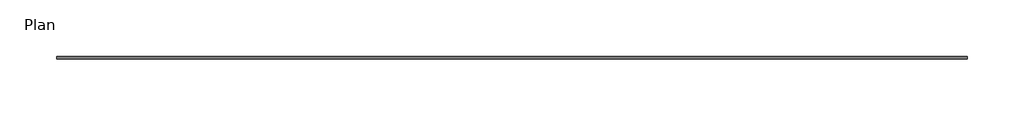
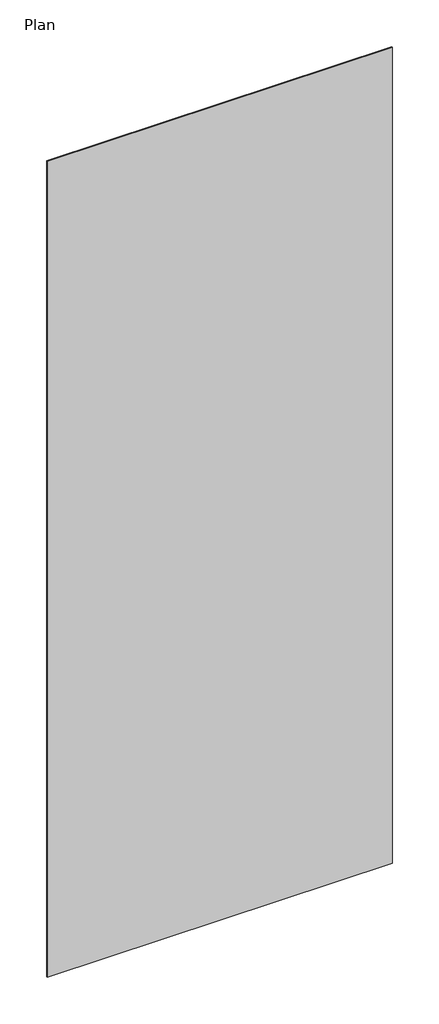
# One storey: 1 proxy.
"""IFC4 building model written with IfcOpenShell, lengths in millimetres."""

import ifcopenshell
import ifcopenshell.guid

model = None  # the IFC model being written
_history = None  # IfcOwnerHistory: only IFC2X3 demands one
_inside = {}  # id of a spatial element -> (the spatial element, [elements in it])
_under = {}  # id of a project, library or spatial element -> (it, [spatial elements below it])
_declared = {}  # id of a project -> (the project, [libraries it declares])
_typed = {}  # id of a type object -> (the type object, [elements of that type])
_made_of = {}  # id of a material, layer set ... -> (it, [elements and type objects made of it])


def new_model(schema):
    """Start an empty IFC model of exactly this schema.

    Asked for "IFC4X3", IfcOpenShell would pick the latest addendum, in which some entities
    have other attributes; the version numbers below select the first issue.
    IFC2X3 requires an IfcOwnerHistory on every rooted entity: one is made here for all.
    """
    global model, _history
    if schema == "IFC4X3":
        model = ifcopenshell.file(schema_version=(4, 3, 0, 0))
    else:
        model = ifcopenshell.file(schema=schema)
    _inside.clear()
    _under.clear()
    _declared.clear()
    _typed.clear()
    _made_of.clear()
    _history = None
    if model.schema == "IFC2X3":
        org = make("IfcOrganization", Name="unknown")
        user = make(
            "IfcPersonAndOrganization",
            ThePerson=make("IfcPerson", FamilyName="unknown"),
            TheOrganization=org,
        )
        app = make(
            "IfcApplication",
            ApplicationDeveloper=org,
            Version="unknown",
            ApplicationFullName="unknown",
            ApplicationIdentifier="unknown",
        )
        _history = make(
            "IfcOwnerHistory",
            OwningUser=user,
            OwningApplication=app,
            ChangeAction="ADDED",
            CreationDate=0,
        )
    return model


def make(cls, **values):
    """One entity of the class cls with the attributes given. An attribute that is None is left unset."""
    return model.create_entity(
        cls, **{name: value for name, value in values.items() if value is not None}
    )


def rooted(cls, **values):
    """An entity with a GlobalId (a new one), such as an element, a storey or a relation."""
    return make(cls, GlobalId=ifcopenshell.guid.new(), OwnerHistory=_history, **values)


def si_unit(unit_type, name, prefix=None):
    """IfcSIUnit, for example si_unit("LENGTHUNIT", "METRE", prefix="MILLI")."""
    return make("IfcSIUnit", UnitType=unit_type, Prefix=prefix, Name=name)


def assignment(units):
    """IfcUnitAssignment: the units of a project."""
    return None if units is None else make("IfcUnitAssignment", Units=units)


def point(xyz):
    """IfcCartesianPoint."""
    return None if xyz is None else make("IfcCartesianPoint", Coordinates=xyz)


def direction(xyz):
    """IfcDirection."""
    return None if xyz is None else make("IfcDirection", DirectionRatios=xyz)


def frame(location, z_axis=None, x_axis=None):
    """IfcAxis2Placement3D, a coordinate frame: its origin and axes. An axis left out is left unset."""
    return make(
        "IfcAxis2Placement3D",
        Location=point(location),
        Axis=direction(z_axis),
        RefDirection=direction(x_axis),
    )


def origin():
    """The frame at (0, 0, 0) with its axes left unset."""
    return frame((0.0, 0.0, 0.0))


def origin_with_axes():
    """The frame at (0, 0, 0) with the z axis (0, 0, 1) and the x axis (1, 0, 0) written out."""
    return frame((0.0, 0.0, 0.0), z_axis=(0.0, 0.0, 1.0), x_axis=(1.0, 0.0, 0.0))


def place(relative_to, where):
    """IfcLocalPlacement: puts the frame where relative to a parent placement (None: the world)."""
    return make(
        "IfcLocalPlacement", PlacementRelTo=relative_to, RelativePlacement=where
    )


def context(
    kind, dimensions, precision=None, world=None, true_north=None, identifier=None
):
    """IfcGeometricRepresentationContext, for example the 3D "Model" context."""
    return make(
        "IfcGeometricRepresentationContext",
        ContextIdentifier=identifier,
        ContextType=kind,
        CoordinateSpaceDimension=dimensions,
        Precision=precision,
        WorldCoordinateSystem=world,
        TrueNorth=true_north,
    )


def project(units=None, contexts=None):
    """IfcProject with its units and contexts."""
    return rooted(
        "IfcProject",
        Name="project",
        RepresentationContexts=contexts,
        UnitsInContext=assignment(units),
    )


def spatial(cls, under=None, at=None, **own):
    """A site, building, storey or space (cls), placed at a placement, below another one or the project."""
    s = rooted(cls, ObjectPlacement=at, **own)
    if under is not None:
        _under.setdefault(under.id(), (under, []))[1].append(s)
    return s


def polyline(points):
    """IfcPolyline through the points."""
    return make("IfcPolyline", Points=[point(p) for p in points])


def outline(outer, holes=None, kind="AREA"):
    """IfcArbitraryClosedProfileDef: a profile drawn as a closed curve; with holes, ...WithVoids."""
    if holes is None:
        return make("IfcArbitraryClosedProfileDef", ProfileType=kind, OuterCurve=outer)
    return make(
        "IfcArbitraryProfileDefWithVoids",
        ProfileType=kind,
        OuterCurve=outer,
        InnerCurves=holes,
    )


def extrude(swept, where, along, depth):
    """IfcExtrudedAreaSolid: the profile swept, set in the frame where, extruded along a direction by depth."""
    return make(
        "IfcExtrudedAreaSolid",
        SweptArea=swept,
        Position=where,
        ExtrudedDirection=direction(along),
        Depth=depth,
    )


def shape(context_of_items, identifier, shape_type, items):
    """IfcShapeRepresentation: the items that make up one representation, for example the "Body"."""
    return make(
        "IfcShapeRepresentation",
        ContextOfItems=context_of_items,
        RepresentationIdentifier=identifier,
        RepresentationType=shape_type,
        Items=items,
    )


def source(mapping_origin, context_of_items, identifier, shape_type, items):
    """IfcRepresentationMap: a shape defined once, which mapped items show again and again."""
    return make(
        "IfcRepresentationMap",
        MappingOrigin=mapping_origin,
        MappedRepresentation=shape(context_of_items, identifier, shape_type, items),
    )


def transform(
    local_origin,
    x_axis=None,
    y_axis=None,
    z_axis=None,
    scale=None,
    scale2=None,
    scale3=None,
    uniform=True,
):
    """IfcCartesianTransformationOperator3D, or its non-uniform kind. x_axis, y_axis, z_axis: its Axis1, 2, 3."""
    if uniform:
        return make(
            "IfcCartesianTransformationOperator3D",
            Axis1=direction(x_axis),
            Axis2=direction(y_axis),
            LocalOrigin=point(local_origin),
            Scale=scale,
            Axis3=direction(z_axis),
        )
    return make(
        "IfcCartesianTransformationOperator3DnonUniform",
        Axis1=direction(x_axis),
        Axis2=direction(y_axis),
        LocalOrigin=point(local_origin),
        Scale=scale,
        Axis3=direction(z_axis),
        Scale2=scale2,
        Scale3=scale3,
    )


def mapped(mapping_source, mapping_target):
    """IfcMappedItem: shows the shape of a source again, moved by a transform."""
    return make(
        "IfcMappedItem", MappingSource=mapping_source, MappingTarget=mapping_target
    )


def made_of(thing, what):
    """Note that an element or type object is made of a material, layer set ...; save() writes the relation."""
    if what is not None:
        _made_of.setdefault(what.id(), (what, []))[1].append(thing)
    return thing


def element(
    cls,
    number,
    at=None,
    inside=None,
    cuts=None,
    type_object=None,
    material=None,
    context=None,
    identifier="Body",
    shape_type=None,
    held_by="IfcProductDefinitionShape",
    body=None,
    shapes=None,
    **own,
):
    """One element of the class cls, such as IfcWall. Its Tag is "e" and its number.

    at: its placement. inside: the storey or other place that contains it. cuts: it is an
    opening in that element (IfcRelVoidsElement). A single representation is given by context,
    identifier, shape_type and body (its items); several are given by shapes. held_by: the class
    of the entity that holds the representations. save() writes the other relations.
    """
    e = rooted(cls, Tag="e%d" % number, ObjectPlacement=at, **own)
    if body is not None:
        shapes = [shape(context, identifier, shape_type, body)]
    if shapes is not None:
        e.Representation = make(held_by, Representations=shapes)
    if inside is not None:
        _inside.setdefault(inside.id(), (inside, []))[1].append(e)
    if cuts is not None:
        rooted(
            "IfcRelVoidsElement", RelatingBuildingElement=cuts, RelatedOpeningElement=e
        )
    if type_object is not None:
        _typed.setdefault(type_object.id(), (type_object, []))[1].append(e)
    return made_of(e, material)


def aggregate(whole, parts):
    """IfcRelAggregates: a whole, such as a stair, and the parts it consists of."""
    return rooted("IfcRelAggregates", RelatingObject=whole, RelatedObjects=parts)


def save(model, path):
    """Write the relations noted so far, then the file.

    IfcRelAggregates (storeys below a building ...), IfcRelContainedInSpatialStructure (elements
    in a storey), IfcRelDefinesByType, IfcRelAssociatesMaterial and IfcRelDeclares: one each for
    every whole, place, type object, material and project.
    """
    for whole, parts in _under.values():
        aggregate(whole, parts)
    for where, things in _inside.values():
        rooted(
            "IfcRelContainedInSpatialStructure",
            RelatedElements=things,
            RelatingStructure=where,
        )
    for kind, things in _typed.values():
        rooted("IfcRelDefinesByType", RelatedObjects=things, RelatingType=kind)
    for what, things in _made_of.values():
        rooted("IfcRelAssociatesMaterial", RelatedObjects=things, RelatingMaterial=what)
    for by, libraries in _declared.values():
        rooted("IfcRelDeclares", RelatingContext=by, RelatedDefinitions=libraries)
    model.write(path)


def generic_models_c424e3db(model_context):
    return source(origin(), model_context, "Body", "SweptSolid", [
        extrude(outline(polyline([(17886.0136184, 15435.3863455), (18686.0136184, 15435.3863455), (18686.0136184, 15433.3863455), (17886.0136184, 15433.3863455), (17886.0136184, 15435.3863455)])), origin_with_axes(), (0.0, 0.0, 1.0), 2000.0),
    ])


model = new_model("IFC4")

# Units and contexts
model_context = context("Model", 3, world=origin())
ifc_project = project(units=[si_unit("LENGTHUNIT", "METRE", prefix="MILLI")], contexts=[model_context])

# Site, building, storey
site = spatial("IfcSite", under=ifc_project)
building = spatial("IfcBuilding", under=site)
storey = spatial("IfcBuildingStorey", under=building, Name="Plan", Elevation=0.0)

# Proxy
placement = place(None, origin())
generic_models_shape = generic_models_c424e3db(model_context)
element("IfcBuildingElementProxy", 1, Name="AQUAPANEL showcase solid : AQUAPANEL showcase solid", ObjectType="AQUAPANEL showcase solid : AQUAPANEL showcase solid", at=placement, inside=storey, context=model_context, shape_type="MappedRepresentation", body=[
    mapped(generic_models_shape, transform((0.0, 0.0, 0.0), x_axis=(1.0, 0.0, 0.0), y_axis=(0.0, 1.0, 0.0), z_axis=(0.0, 0.0, 1.0))),
])

save(model, "model.ifc")
